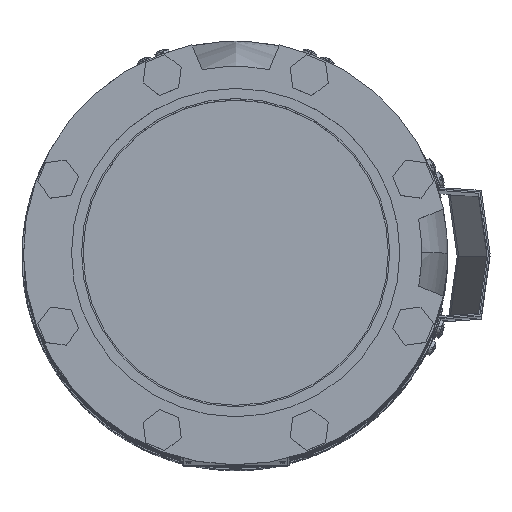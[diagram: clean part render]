
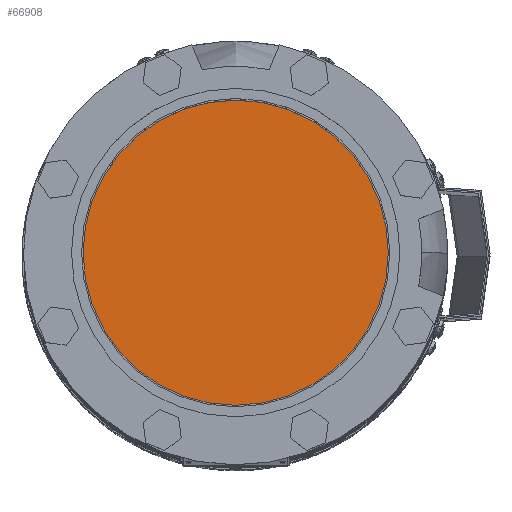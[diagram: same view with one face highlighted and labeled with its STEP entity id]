
A CAD part, top view. The second image highlights one B-rep face of the part: STEP entity #66908.
In plain terms, the highlighted planar face has unit normal (0, 0, 1) as drawn and (0, 1, 0) by its records, which use the part's own axes.
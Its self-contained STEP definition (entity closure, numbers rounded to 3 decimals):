
#600=CIRCLE('',#70514,102.5);
#601=CIRCLE('',#70515,102.5);
#16231=ORIENTED_EDGE('',*,*,#36495,.F.);
#16232=ORIENTED_EDGE('',*,*,#36496,.T.);
#36495=EDGE_CURVE('',#46627,#46628,#600,.T.);
#36496=EDGE_CURVE('',#46627,#46628,#601,.T.);
#46627=VERTEX_POINT('',#96502);
#46628=VERTEX_POINT('',#96503);
#54155=EDGE_LOOP('',(#16231,#16232));
#59018=FACE_BOUND('',#54155,.T.);
#63880=PLANE('',#70513);
#66908=ADVANCED_FACE('',(#59018),#63880,.T.);
#70513=AXIS2_PLACEMENT_3D('',#96500,#77068,#77069);
#70514=AXIS2_PLACEMENT_3D('',#96501,#77070,#77071);
#70515=AXIS2_PLACEMENT_3D('',#96504,#77072,#77073);
#77068=DIRECTION('',(0.,1.,0.));
#77069=DIRECTION('',(-1.,0.,0.));
#77070=DIRECTION('',(0.,-1.,0.));
#77071=DIRECTION('',(-1.,0.,0.));
#77072=DIRECTION('',(0.,1.,0.));
#77073=DIRECTION('',(-1.,0.,0.));
#96500=CARTESIAN_POINT('',(-109.56,216.5,0.));
#96501=CARTESIAN_POINT('',(0.,216.5,0.));
#96502=CARTESIAN_POINT('',(-102.5,216.5,0.));
#96503=CARTESIAN_POINT('',(102.5,216.5,0.));
#96504=CARTESIAN_POINT('',(0.,216.5,0.));
